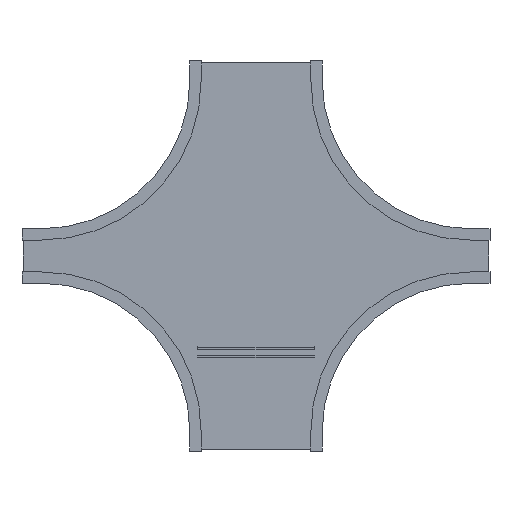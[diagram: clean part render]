
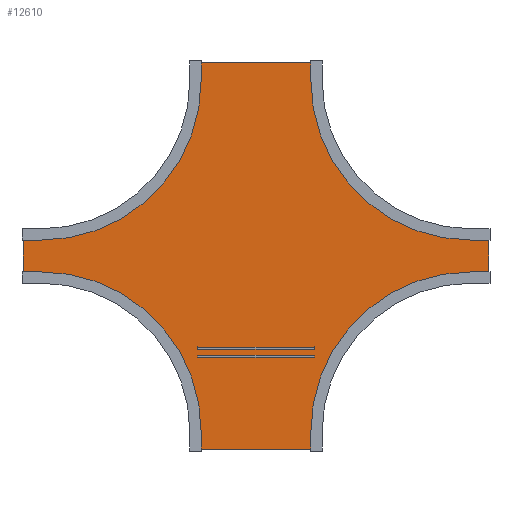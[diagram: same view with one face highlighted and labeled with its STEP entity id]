
A CAD part, front view. The second image highlights one B-rep face of the part: STEP entity #12610.
In plain terms, the highlighted planar face has unit normal (0, -1, 0).
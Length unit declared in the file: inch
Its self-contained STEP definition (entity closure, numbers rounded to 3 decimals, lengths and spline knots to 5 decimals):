
#12307=DIRECTION('',(0.,0.,1.));
#12308=VECTOR('',#12307,5.875);
#12309=CARTESIAN_POINT('',(-35.875,0.,-2.9375));
#12310=LINE('',#12309,#12308);
#12311=DIRECTION('',(1.,0.,0.));
#12312=VECTOR('',#12311,2.785);
#12313=CARTESIAN_POINT('',(-35.875,0.,2.9375));
#12314=LINE('',#12313,#12312);
#12315=CARTESIAN_POINT('',(-33.09,0.,27.09));
#12316=DIRECTION('',(0.,-1.,0.));
#12317=DIRECTION('',(0.,0.,-1.));
#12318=AXIS2_PLACEMENT_3D('',#12315,#12316,#12317);
#12320=DIRECTION('',(0.,0.,1.));
#12321=VECTOR('',#12320,2.785);
#12322=CARTESIAN_POINT('',(-8.9375,0.,27.09));
#12323=LINE('',#12322,#12321);
#12324=DIRECTION('',(1.,0.,0.));
#12325=VECTOR('',#12324,17.875);
#12326=CARTESIAN_POINT('',(-8.9375,0.,29.875));
#12327=LINE('',#12326,#12325);
#12328=DIRECTION('',(0.,0.,-1.));
#12329=VECTOR('',#12328,2.785);
#12330=CARTESIAN_POINT('',(8.9375,0.,29.875));
#12331=LINE('',#12330,#12329);
#12332=CARTESIAN_POINT('',(33.09,0.,27.09));
#12333=DIRECTION('',(0.,-1.,0.));
#12334=DIRECTION('',(-1.,0.,0.));
#12335=AXIS2_PLACEMENT_3D('',#12332,#12333,#12334);
#12337=DIRECTION('',(1.,0.,0.));
#12338=VECTOR('',#12337,2.785);
#12339=CARTESIAN_POINT('',(33.09,0.,2.9375));
#12340=LINE('',#12339,#12338);
#12341=DIRECTION('',(0.,0.,-1.));
#12342=VECTOR('',#12341,5.875);
#12343=CARTESIAN_POINT('',(35.875,0.,2.9375));
#12344=LINE('',#12343,#12342);
#12345=DIRECTION('',(-1.,0.,0.));
#12346=VECTOR('',#12345,2.785);
#12347=CARTESIAN_POINT('',(35.875,0.,-2.9375));
#12348=LINE('',#12347,#12346);
#12349=CARTESIAN_POINT('',(33.09,0.,-27.09));
#12350=DIRECTION('',(0.,-1.,0.));
#12351=DIRECTION('',(0.,0.,1.));
#12352=AXIS2_PLACEMENT_3D('',#12349,#12350,#12351);
#12354=DIRECTION('',(0.,0.,-1.));
#12355=VECTOR('',#12354,2.785);
#12356=CARTESIAN_POINT('',(8.9375,0.,-27.09));
#12357=LINE('',#12356,#12355);
#12358=DIRECTION('',(-1.,0.,0.));
#12359=VECTOR('',#12358,17.875);
#12360=CARTESIAN_POINT('',(8.9375,0.,-29.875));
#12361=LINE('',#12360,#12359);
#12362=DIRECTION('',(0.,0.,1.));
#12363=VECTOR('',#12362,2.785);
#12364=CARTESIAN_POINT('',(-8.9375,0.,-29.875));
#12365=LINE('',#12364,#12363);
#12366=CARTESIAN_POINT('',(-33.09,0.,-27.09));
#12367=DIRECTION('',(0.,-1.,0.));
#12368=DIRECTION('',(1.,0.,0.));
#12369=AXIS2_PLACEMENT_3D('',#12366,#12367,#12368);
#12371=DIRECTION('',(-1.,0.,0.));
#12372=VECTOR('',#12371,2.785);
#12373=CARTESIAN_POINT('',(-33.09,0.,-2.9375));
#12374=LINE('',#12373,#12372);
#12507=CARTESIAN_POINT('',(-35.875,0.,-2.9375));
#12508=CARTESIAN_POINT('',(-35.875,0.,2.9375));
#12509=VERTEX_POINT('',#12507);
#12510=VERTEX_POINT('',#12508);
#12511=CARTESIAN_POINT('',(-33.09,0.,2.9375));
#12512=VERTEX_POINT('',#12511);
#12513=CARTESIAN_POINT('',(-8.9375,0.,27.09));
#12514=VERTEX_POINT('',#12513);
#12515=CARTESIAN_POINT('',(-8.9375,0.,29.875));
#12516=VERTEX_POINT('',#12515);
#12517=CARTESIAN_POINT('',(8.9375,0.,29.875));
#12518=VERTEX_POINT('',#12517);
#12519=CARTESIAN_POINT('',(8.9375,0.,27.09));
#12520=VERTEX_POINT('',#12519);
#12521=CARTESIAN_POINT('',(33.09,0.,2.9375));
#12522=VERTEX_POINT('',#12521);
#12523=CARTESIAN_POINT('',(35.875,0.,2.9375));
#12524=VERTEX_POINT('',#12523);
#12525=CARTESIAN_POINT('',(35.875,0.,-2.9375));
#12526=VERTEX_POINT('',#12525);
#12527=CARTESIAN_POINT('',(33.09,0.,-2.9375));
#12528=VERTEX_POINT('',#12527);
#12529=CARTESIAN_POINT('',(8.9375,0.,-27.09));
#12530=VERTEX_POINT('',#12529);
#12531=CARTESIAN_POINT('',(8.9375,0.,-29.875));
#12532=VERTEX_POINT('',#12531);
#12533=CARTESIAN_POINT('',(-8.9375,0.,-29.875));
#12534=VERTEX_POINT('',#12533);
#12535=CARTESIAN_POINT('',(-8.9375,0.,-27.09));
#12536=VERTEX_POINT('',#12535);
#12537=CARTESIAN_POINT('',(-33.09,0.,-2.9375));
#12538=VERTEX_POINT('',#12537);
#12571=CARTESIAN_POINT('',(0.,0.,0.));
#12572=DIRECTION('',(0.,1.,0.));
#12573=DIRECTION('',(1.,0.,0.));
#12574=AXIS2_PLACEMENT_3D('',#12571,#12572,#12573);
#12575=PLANE('',#12574);
#12577=ORIENTED_EDGE('',*,*,#12576,.T.);
#12579=ORIENTED_EDGE('',*,*,#12578,.T.);
#12581=ORIENTED_EDGE('',*,*,#12580,.T.);
#12583=ORIENTED_EDGE('',*,*,#12582,.T.);
#12585=ORIENTED_EDGE('',*,*,#12584,.T.);
#12587=ORIENTED_EDGE('',*,*,#12586,.T.);
#12589=ORIENTED_EDGE('',*,*,#12588,.T.);
#12591=ORIENTED_EDGE('',*,*,#12590,.T.);
#12593=ORIENTED_EDGE('',*,*,#12592,.T.);
#12595=ORIENTED_EDGE('',*,*,#12594,.T.);
#12597=ORIENTED_EDGE('',*,*,#12596,.T.);
#12599=ORIENTED_EDGE('',*,*,#12598,.T.);
#12601=ORIENTED_EDGE('',*,*,#12600,.T.);
#12603=ORIENTED_EDGE('',*,*,#12602,.T.);
#12605=ORIENTED_EDGE('',*,*,#12604,.T.);
#12607=ORIENTED_EDGE('',*,*,#12606,.T.);
#12608=EDGE_LOOP('',(#12577,#12579,#12581,#12583,#12585,#12587,#12589,#12591,
#12593,#12595,#12597,#12599,#12601,#12603,#12605,#12607));
#12609=FACE_OUTER_BOUND('',#12608,.F.);
#12610=ADVANCED_FACE('',(#12609),#12575,.F.);
#12319=CIRCLE('',#12318,24.1525);
#12336=CIRCLE('',#12335,24.1525);
#12353=CIRCLE('',#12352,24.1525);
#12370=CIRCLE('',#12369,24.1525);
#12576=EDGE_CURVE('',#12509,#12510,#12310,.T.);
#12578=EDGE_CURVE('',#12510,#12512,#12314,.T.);
#12580=EDGE_CURVE('',#12512,#12514,#12319,.T.);
#12582=EDGE_CURVE('',#12514,#12516,#12323,.T.);
#12584=EDGE_CURVE('',#12516,#12518,#12327,.T.);
#12586=EDGE_CURVE('',#12518,#12520,#12331,.T.);
#12588=EDGE_CURVE('',#12520,#12522,#12336,.T.);
#12590=EDGE_CURVE('',#12522,#12524,#12340,.T.);
#12592=EDGE_CURVE('',#12524,#12526,#12344,.T.);
#12594=EDGE_CURVE('',#12526,#12528,#12348,.T.);
#12596=EDGE_CURVE('',#12528,#12530,#12353,.T.);
#12598=EDGE_CURVE('',#12530,#12532,#12357,.T.);
#12600=EDGE_CURVE('',#12532,#12534,#12361,.T.);
#12602=EDGE_CURVE('',#12534,#12536,#12365,.T.);
#12604=EDGE_CURVE('',#12536,#12538,#12370,.T.);
#12606=EDGE_CURVE('',#12538,#12509,#12374,.T.);
